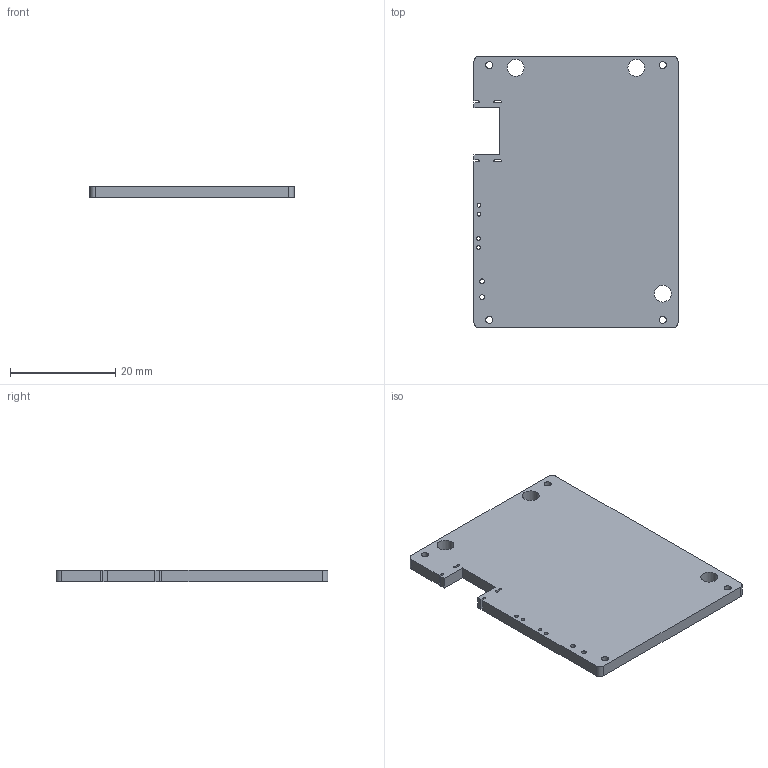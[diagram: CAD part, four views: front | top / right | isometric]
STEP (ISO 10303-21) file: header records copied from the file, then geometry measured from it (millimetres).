
FILE_DESCRIPTION(('Open CASCADE Model'),'2;1');
FILE_NAME('Open CASCADE Shape Model','2023-11-20T10:58:40',('Author'),( 'Open CASCADE'),'Open CASCADE STEP processor 6.8','Open CASCADE 6.8' ,'Unknown');
FILE_SCHEMA(('AUTOMOTIVE_DESIGN { 1 0 10303 214 1 1 1 1 }'));
Length unit declared in the file: millimetre
Products named in the file (4): PCB; Board; Open CASCADE STEP translator 6.8 1.1.1; Open CASCADE STEP translator 6.8 1.1.1.1
Assembly tree (3 placements, depth 4):
  PCB
    Board
      Open CASCADE STEP translator 6.8 1.1.1
        Open CASCADE STEP translator 6.8 1.1.1.1
Bounding box: 38.72 x 51.56 x 2.27 mm (x, y, z)
Volume: 4344.3 mm3; surface area: 4424.2 mm2
Topology: 1 solids, 1 shells, 47 faces, 135 edges, 90 vertices
Faces by surface type: cylinder 27, plane 20
Full cylindrical faces by diameter (mm): 0.7 x4, 0.9 x2, 3.2 x3
Entity records: 1698 total; most frequent: DIRECTION 291, CARTESIAN_POINT 276, ORIENTED_EDGE 270, EDGE_CURVE 135, AXIS2_PLACEMENT_3D 105, VERTEX_POINT 90, LINE 81, VECTOR 81
